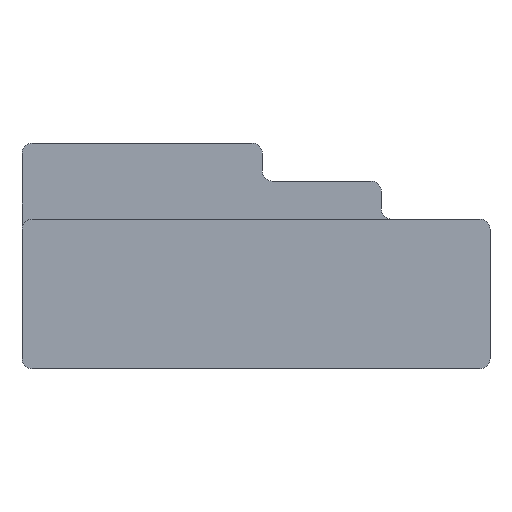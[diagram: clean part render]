
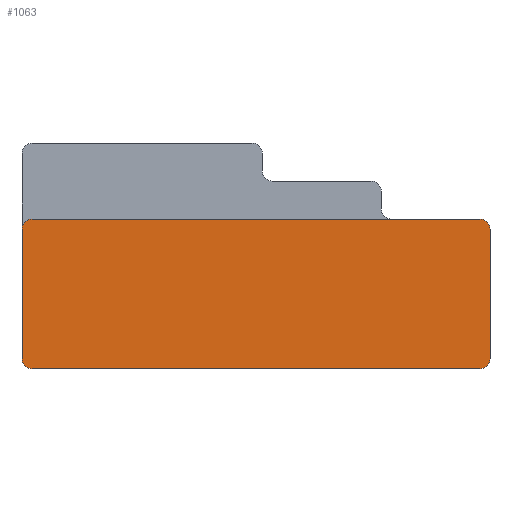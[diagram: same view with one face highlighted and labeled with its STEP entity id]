
A CAD part, front view. The second image highlights one B-rep face of the part: STEP entity #1063.
In plain terms, the highlighted planar face has unit normal (0, -1, 0).
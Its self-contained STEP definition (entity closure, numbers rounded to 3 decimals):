
#190=CARTESIAN_POINT('',(-10.9,-11.6,6.8));
#191=DIRECTION('',(0.,-1.,0.));
#192=DIRECTION('',(0.,0.,1.));
#193=AXIS2_PLACEMENT_3D('',#190,#191,#192);
#195=CARTESIAN_POINT('',(10.9,-11.6,6.8));
#196=DIRECTION('',(0.,-1.,0.));
#197=DIRECTION('',(1.,0.,0.));
#198=AXIS2_PLACEMENT_3D('',#195,#196,#197);
#200=CARTESIAN_POINT('',(10.9,-11.6,0.5));
#201=DIRECTION('',(0.,-1.,0.));
#202=DIRECTION('',(0.,0.,-1.));
#203=AXIS2_PLACEMENT_3D('',#200,#201,#202);
#205=CARTESIAN_POINT('',(-10.9,-11.6,0.5));
#206=DIRECTION('',(0.,-1.,0.));
#207=DIRECTION('',(-1.,0.,0.));
#208=AXIS2_PLACEMENT_3D('',#205,#206,#207);
#210=DIRECTION('',(0.,0.,1.));
#211=VECTOR('',#210,6.3);
#212=CARTESIAN_POINT('',(-11.4,-11.6,0.5));
#213=LINE('',#212,#211);
#298=DIRECTION('',(1.,0.,0.));
#299=VECTOR('',#298,21.8);
#300=CARTESIAN_POINT('',(-10.9,-11.6,7.3));
#301=LINE('',#300,#299);
#490=DIRECTION('',(1.,0.,0.));
#491=VECTOR('',#490,21.8);
#492=CARTESIAN_POINT('',(-10.9,-11.6,0.));
#493=LINE('',#492,#491);
#560=DIRECTION('',(0.,0.,1.));
#561=VECTOR('',#560,6.3);
#562=CARTESIAN_POINT('',(11.4,-11.6,0.5));
#563=LINE('',#562,#561);
#688=CARTESIAN_POINT('',(-10.9,-11.6,7.3));
#689=CARTESIAN_POINT('',(-11.4,-11.6,6.8));
#690=VERTEX_POINT('',#688);
#691=VERTEX_POINT('',#689);
#716=CARTESIAN_POINT('',(11.4,-11.6,6.8));
#717=VERTEX_POINT('',#716);
#718=CARTESIAN_POINT('',(10.9,-11.6,7.3));
#719=VERTEX_POINT('',#718);
#720=CARTESIAN_POINT('',(10.9,-11.6,0.));
#721=CARTESIAN_POINT('',(11.4,-11.6,0.5));
#722=VERTEX_POINT('',#720);
#723=VERTEX_POINT('',#721);
#732=CARTESIAN_POINT('',(-11.4,-11.6,0.5));
#733=VERTEX_POINT('',#732);
#734=CARTESIAN_POINT('',(-10.9,-11.6,0.));
#735=VERTEX_POINT('',#734);
#1041=CARTESIAN_POINT('',(-11.4,-11.6,0.));
#1042=DIRECTION('',(0.,-1.,0.));
#1043=DIRECTION('',(1.,0.,0.));
#1044=AXIS2_PLACEMENT_3D('',#1041,#1042,#1043);
#1045=PLANE('',#1044);
#1047=ORIENTED_EDGE('',*,*,#1046,.F.);
#1049=ORIENTED_EDGE('',*,*,#1048,.T.);
#1051=ORIENTED_EDGE('',*,*,#1050,.F.);
#1053=ORIENTED_EDGE('',*,*,#1052,.F.);
#1054=ORIENTED_EDGE('',*,*,#1031,.F.);
#1056=ORIENTED_EDGE('',*,*,#1055,.F.);
#1058=ORIENTED_EDGE('',*,*,#1057,.F.);
#1060=ORIENTED_EDGE('',*,*,#1059,.T.);
#1061=EDGE_LOOP('',(#1047,#1049,#1051,#1053,#1054,#1056,#1058,#1060));
#1062=FACE_OUTER_BOUND('',#1061,.F.);
#1063=ADVANCED_FACE('',(#1062),#1045,.T.);
#194=CIRCLE('',#193,0.5);
#199=CIRCLE('',#198,0.5);
#204=CIRCLE('',#203,0.5);
#209=CIRCLE('',#208,0.5);
#1031=EDGE_CURVE('',#722,#723,#204,.T.);
#1046=EDGE_CURVE('',#690,#691,#194,.T.);
#1048=EDGE_CURVE('',#690,#719,#301,.T.);
#1050=EDGE_CURVE('',#717,#719,#199,.T.);
#1052=EDGE_CURVE('',#723,#717,#563,.T.);
#1055=EDGE_CURVE('',#735,#722,#493,.T.);
#1057=EDGE_CURVE('',#733,#735,#209,.T.);
#1059=EDGE_CURVE('',#733,#691,#213,.T.);
